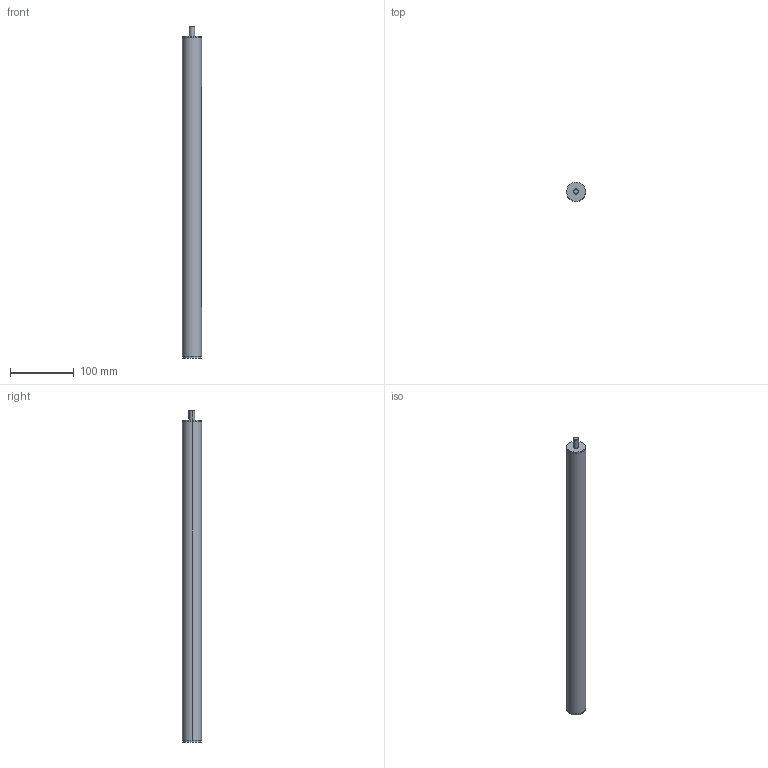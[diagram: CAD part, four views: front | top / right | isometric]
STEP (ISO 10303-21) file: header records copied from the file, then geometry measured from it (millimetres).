
FILE_DESCRIPTION (( 'STEP AP214' ), '1' );
FILE_NAME ('291-30-300-L1-SCR.step', '2023-08-30T05:20:05', ( '' ), ( '' ), 'SwSTEP 2.0', 'SolidWorks 2022', '' );
FILE_SCHEMA (( 'AUTOMOTIVE_DESIGN' ));
Length unit declared in the file: millimetre
Products named in the file (3): WB2910 Rund^WBVES_30-300-1; 291-30-300-L1-SCR; WB2910 mutter^WBVES_Tr14-M4
Assembly tree (2 placements, depth 2):
  291-30-300-L1-SCR
    WB2910 mutter^WBVES_Tr14-M4
    WB2910 Rund^WBVES_30-300-1
Bounding box: 30 x 30 x 521 mm (x, y, z)
Volume: 157231.7 mm3; surface area: 117108.9 mm2
Topology: 2 solids, 2 shells, 48 faces, 112 edges, 70 vertices
Faces by surface type: cylinder 25, plane 17, cone 6
Entity records: 1823 total; most frequent: CARTESIAN_POINT 402, DIRECTION 246, ORIENTED_EDGE 216, EDGE_CURVE 108, AXIS2_PLACEMENT_3D 96, VERTEX_POINT 70, EDGE_LOOP 58, LINE 54
